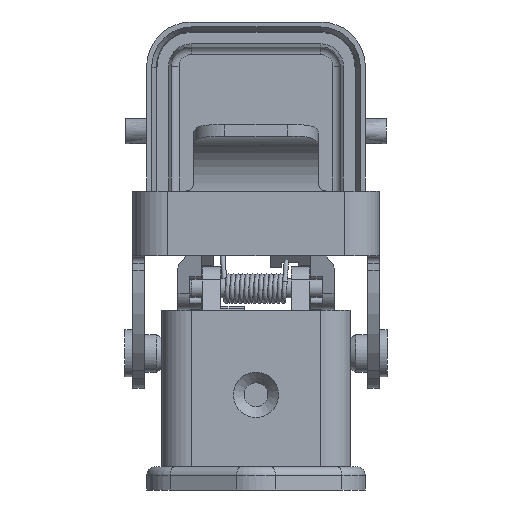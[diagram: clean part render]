
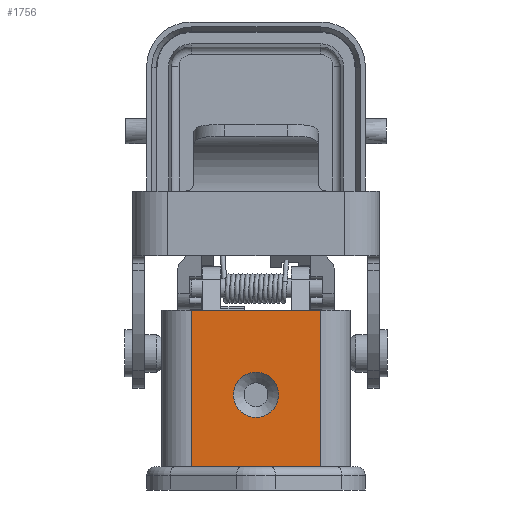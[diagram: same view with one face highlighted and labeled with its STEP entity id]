
A CAD part, left-side view. The second image highlights one B-rep face of the part: STEP entity #1756.
In plain terms, the highlighted planar face has unit normal (-1, 0, 0).
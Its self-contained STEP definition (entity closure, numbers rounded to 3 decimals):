
#1558=FACE_BOUND('',#2810,.T.);
#1559=FACE_BOUND('',#2811,.T.);
#1756=ADVANCED_FACE('',(#1558,#1559),#2147,.F.);
#2147=PLANE('',#9532);
#2810=EDGE_LOOP('',(#3973));
#2811=EDGE_LOOP('',(#3974,#3975,#3976,#3977));
#3342=CIRCLE('',#9531,2.9);
#3973=ORIENTED_EDGE('',*,*,#6790,.F.);
#3974=ORIENTED_EDGE('',*,*,#6791,.F.);
#3975=ORIENTED_EDGE('',*,*,#6789,.T.);
#3976=ORIENTED_EDGE('',*,*,#6792,.T.);
#3977=ORIENTED_EDGE('',*,*,#6793,.F.);
#5979=VERTEX_POINT('',#12932);
#5980=VERTEX_POINT('',#12934);
#5981=VERTEX_POINT('',#12938);
#5982=VERTEX_POINT('',#12940);
#5983=VERTEX_POINT('',#12942);
#6789=EDGE_CURVE('',#5979,#5980,#7822,.T.);
#6790=EDGE_CURVE('',#5981,#5981,#3342,.T.);
#6791=EDGE_CURVE('',#5979,#5982,#7823,.T.);
#6792=EDGE_CURVE('',#5980,#5983,#7824,.T.);
#6793=EDGE_CURVE('',#5982,#5983,#7825,.T.);
#7822=LINE('',#12935,#8550);
#7823=LINE('',#12939,#8551);
#7824=LINE('',#12941,#8552);
#7825=LINE('',#12943,#8553);
#8550=VECTOR('',#10583,1.);
#8551=VECTOR('',#10588,1.);
#8552=VECTOR('',#10589,1.);
#8553=VECTOR('',#10590,1.);
#9531=AXIS2_PLACEMENT_3D('',#12937,#10586,#10587);
#9532=AXIS2_PLACEMENT_3D('',#12944,#10591,#10592);
#10583=DIRECTION('',(0.,0.,1.));
#10586=DIRECTION('',(-1.,0.,0.));
#10587=DIRECTION('',(0.,0.,1.));
#10588=DIRECTION('',(0.,1.,0.));
#10589=DIRECTION('',(0.,1.,0.));
#10590=DIRECTION('',(0.,0.,1.));
#10591=DIRECTION('',(1.,0.,0.));
#10592=DIRECTION('',(0.,0.,1.));
#12932=CARTESIAN_POINT('',(-12.1,-8.3,-9.2));
#12934=CARTESIAN_POINT('',(-12.1,-8.3,10.8));
#12935=CARTESIAN_POINT('',(-12.1,-8.3,-11.2));
#12937=CARTESIAN_POINT('',(-12.1,0.,0.));
#12938=CARTESIAN_POINT('',(-12.1,0.,2.9));
#12939=CARTESIAN_POINT('',(-12.1,-8.3,-9.2));
#12940=CARTESIAN_POINT('',(-12.1,8.3,-9.2));
#12941=CARTESIAN_POINT('',(-12.1,-8.3,10.8));
#12942=CARTESIAN_POINT('',(-12.1,8.3,10.8));
#12943=CARTESIAN_POINT('',(-12.1,8.3,-11.2));
#12944=CARTESIAN_POINT('',(-12.1,-8.3,-11.2));
